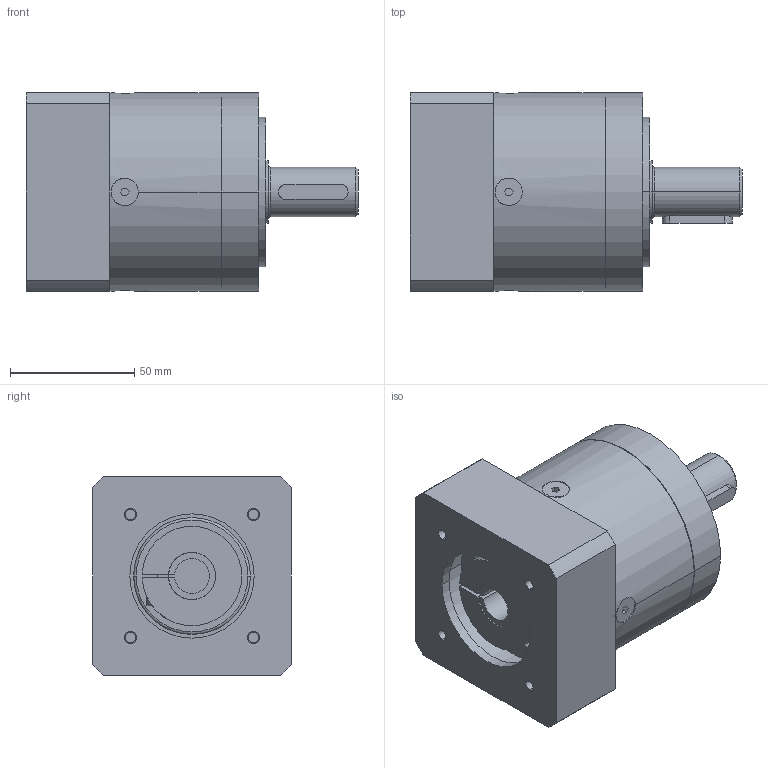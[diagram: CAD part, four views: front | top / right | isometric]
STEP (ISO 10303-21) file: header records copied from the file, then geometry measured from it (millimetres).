
FILE_DESCRIPTION((''),'2;1');
FILE_NAME('MB_PLE_MASTER','2026-03-26T11:03:15',('agw'),(''),'CREO PARAMETRIC BY PTC INC, 2022124','CREO PARAMETRIC BY PTC INC, 2022124','');
FILE_SCHEMA(('AUTOMOTIVE_DESIGN { 1 0 10303 214 1 1 1 1 }'));
Length unit declared in the file: millimetre
Products named in the file (1): MB_PLE_MASTER
Bounding box: 133.5 x 80 x 80 mm (x, y, z)
Volume: 496972.4 mm3; surface area: 58146.6 mm2
Topology: 1 solids, 10 shells, 186 faces, 463 edges, 345 vertices
Faces by surface type: plane 86, cylinder 86, torus 8, cone 6
Entity records: 6713 total; most frequent: CARTESIAN_POINT 1137, DIRECTION 1037, ORIENTED_EDGE 822, EDGE_CURVE 429, AXIS2_PLACEMENT_3D 387, VERTEX_POINT 279, VECTOR 263, LINE 263
